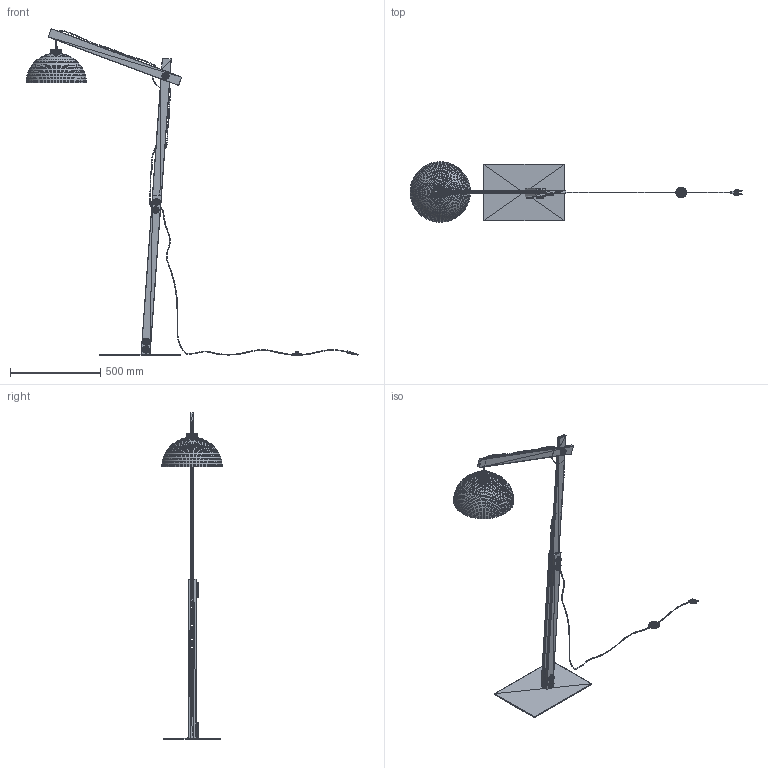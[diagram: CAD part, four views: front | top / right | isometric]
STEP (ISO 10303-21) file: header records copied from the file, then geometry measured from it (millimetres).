
FILE_DESCRIPTION(('FreeCAD Model'),'2;1');
FILE_NAME('Open CASCADE Shape Model','2022-11-30T09:12:54',('Author'),( ''),'Open CASCADE STEP processor 7.6','FreeCAD','Unknown');
FILE_SCHEMA(('AUTOMOTIVE_DESIGN { 1 0 10303 214 1 1 1 1 }'));
Length unit declared in the file: millimetre
Products named in the file (44): Unnamed; Mesh044 (Solid); Mesh001001 (Solid); Mesh002001 (Solid); Mesh003001 (Solid); Mesh004001 (Solid); Mesh005001 (Solid); Mesh007001 (Solid); Mesh008001 (Solid); Mesh009001 (Solid); Mesh010001 (Solid); Mesh011001 (Solid); Mesh012001 (Solid); Mesh013001 (Solid); Mesh014001 (Solid); Mesh015001 (Solid); Mesh016001 (Solid); Mesh017001 (Solid); Mesh018001 (Solid); Mesh019001 (Solid); Mesh020001 (Solid); Mesh021001 (Solid); Mesh022001 (Solid); Mesh023001 (Solid); Mesh024001 (Solid); Mesh025001 (Solid); Mesh026001 (Solid); Mesh027001 (Solid); Mesh028001 (Solid); Mesh029001 (Solid); Mesh030001 (Solid); Mesh031001 (Solid); Mesh032001 (Solid); Mesh033001 (Solid); Mesh034001 (Solid); Mesh035001 (Solid); Mesh036001 (Solid); Mesh037001 (Solid); Mesh038001 (Solid); Mesh039001 (Solid)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
Assembly tree (43 placements, depth 2):
  Unnamed
    Mesh044 (Solid)
    Mesh001001 (Solid)
    Mesh002001 (Solid)
    Mesh003001 (Solid)
    Mesh004001 (Solid)
    Mesh005001 (Solid)
    Mesh007001 (Solid)
    Mesh008001 (Solid)
    Mesh009001 (Solid)
    Mesh010001 (Solid)
    Mesh011001 (Solid)
    Mesh012001 (Solid)
    Mesh013001 (Solid)
    Mesh014001 (Solid)
    Mesh015001 (Solid)
    Mesh016001 (Solid)
    Mesh017001 (Solid)
    Mesh018001 (Solid)
    Mesh019001 (Solid)
    Mesh020001 (Solid)
    Mesh021001 (Solid)
    Mesh022001 (Solid)
    Mesh023001 (Solid)
    Mesh024001 (Solid)
    Mesh025001 (Solid)
    Mesh026001 (Solid)
    Mesh027001 (Solid)
    Mesh028001 (Solid)
    Mesh029001 (Solid)
    Mesh030001 (Solid)
    Mesh031001 (Solid)
    Mesh032001 (Solid)
    Mesh033001 (Solid)
    Mesh034001 (Solid)
    Mesh035001 (Solid)
    Mesh036001 (Solid)
    Mesh037001 (Solid)
    Mesh038001 (Solid)
    Mesh039001 (Solid)
    Mesh040001 (Solid)
    Mesh041001 (Solid)
    Mesh042001 (Solid)
    Mesh043001 (Solid)
Bounding box: 1838.02 x 334.75 x 1808.77 mm (x, y, z)
Volume: 2632726.7 mm3; surface area: 1186424.9 mm2
Topology: 19 solids, 45 shells, 33764 faces, 51404 edges, 17678 vertices
Faces by surface type: plane 33764
Entity records: 1342012 total; most frequent: DIRECTION 223276, CARTESIAN_POINT 206906, LINE 154732, VECTOR 154732, ORIENTED_EDGE 102684, PCURVE 102640, DEFINITIONAL_REPRESENTATION 102640, EDGE_CURVE 52092
